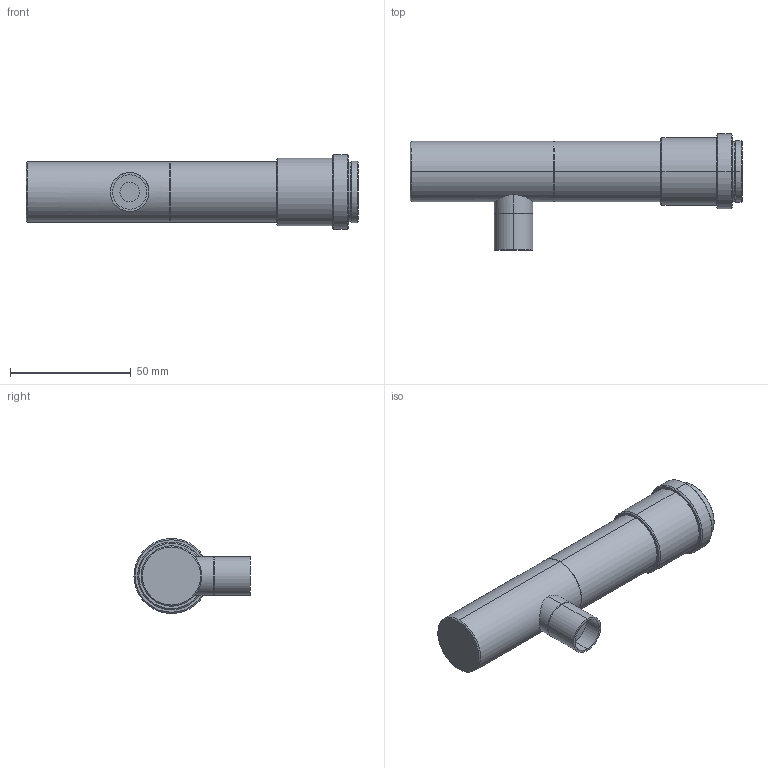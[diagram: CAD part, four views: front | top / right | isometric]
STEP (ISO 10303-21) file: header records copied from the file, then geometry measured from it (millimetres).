
FILE_DESCRIPTION (( 'STEP AP203' ), '1' );
FILE_NAME ('VS-TCM4-50CO.STEP', '2016-07-15T00:35:57', ( 'miura_vst' ), ( '' ), 'SwSTEP 2.0', 'SolidWorks 2016', '' );
FILE_SCHEMA (( 'CONFIG_CONTROL_DESIGN' ));
Length unit declared in the file: millimetre
Products named in the file (1): VS-TCM4-50CO
Bounding box: 137.3 x 48 x 31 mm (x, y, z)
Volume: 74563.3 mm3; surface area: 14150.8 mm2
Topology: 1 solids, 1 shells, 48 faces, 98 edges, 58 vertices
Faces by surface type: cylinder 20, cone 20, plane 8
Entity records: 1419 total; most frequent: CARTESIAN_POINT 289, DIRECTION 250, ORIENTED_EDGE 196, AXIS2_PLACEMENT_3D 105, EDGE_CURVE 98, VERTEX_POINT 58, CIRCLE 56, EDGE_LOOP 54
